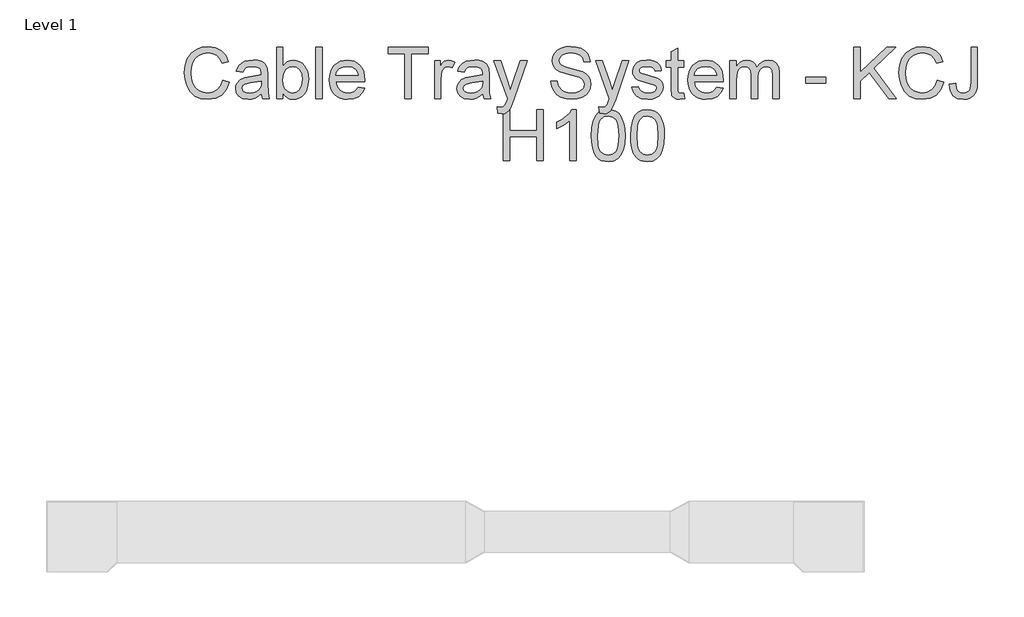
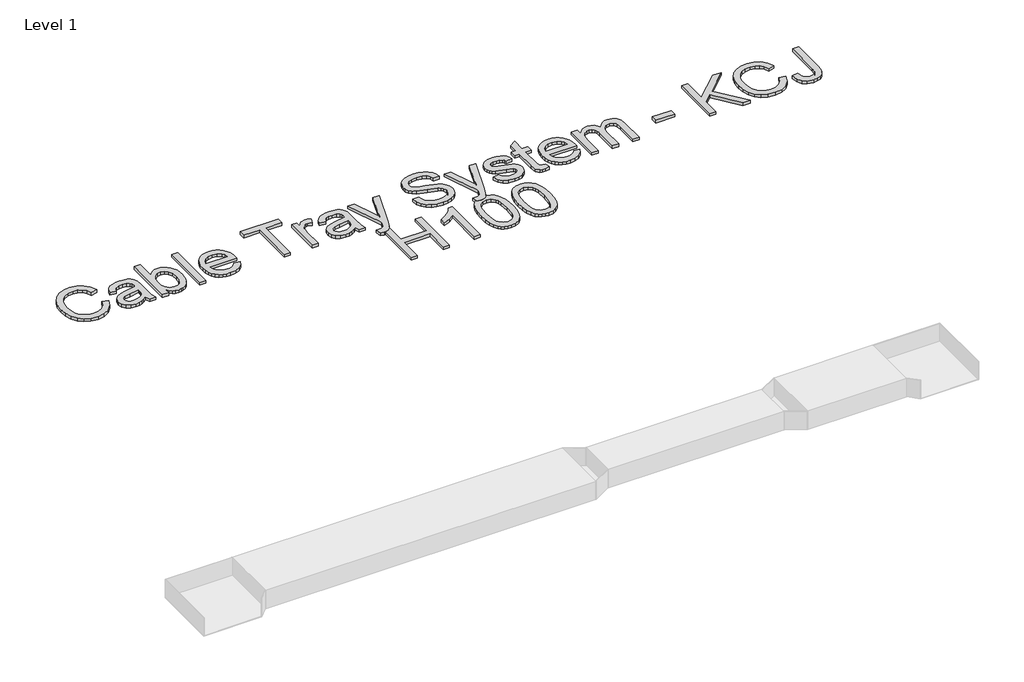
# One storey, part 90 of 106: 1 proxy.
"""IFC4 building model written with IfcOpenShell, lengths in millimetres."""

from ifc_helpers import new_model, si_unit, origin, origin_with_axes, place, context, project, spatial, polyline, outline, extrude, element, save

model = new_model("IFC4")

# Units and contexts
model_context = context("Model", 3, world=origin())
ifc_project = project(units=[si_unit("LENGTHUNIT", "METRE", prefix="MILLI")], contexts=[model_context])

# Site, building, storey
site = spatial("IfcSite", under=ifc_project)
building = spatial("IfcBuilding", under=site)
storey = spatial("IfcBuildingStorey", under=building, Name="Level 1", Elevation=0.0)

# Proxy
placement = place(None, origin())
element("IfcBuildingElementProxy", 1, Name="250mm Arial 3", ObjectType="250mm Arial 3", at=placement, inside=storey, context=model_context, shape_type="SweptSolid", body=[
    extrude(outline(polyline([(157669.4388252, 25992.4106539), (157700.8314221, 25984.31725), (157686.3460685, 25947.7359841), (157663.6140269, 25921.01089), (157633.7542717, 25904.6631338), (157597.8857771, 25899.2138818), (157561.4731238, 25903.3372258), (157532.5560661, 25915.7072579), (157510.3911759, 25935.8947824), (157494.235025, 25963.4706036), (157484.371189, 25995.8902044), (157481.0832437, 26030.6090677), (157484.8003846, 26067.2286547), (157495.9518076, 26098.8511778), (157513.9550328, 26124.472626), (157538.2275802, 26143.0889877), (157567.0143464, 26154.4243517), (157598.5602274, 26158.2028064), (157632.9801866, 26153.3130415), (157661.4373918, 26138.643747), (157683.0427948, 26115.0992993), (157696.9073475, 26083.584075), (157665.5147506, 26076.1038078), (157654.6315749, 26098.9967978), (157639.7630109, 26114.7007605), (157620.7251177, 26123.7828472), (157597.3339541, 26126.8102095), (157570.3712696, 26123.4532863), (157548.2217078, 26113.3825166), (157531.4140991, 26097.6555613), (157520.477274, 26077.3300811), (157514.4761989, 26054.3527848), (157512.4758406, 26030.6703814), (157514.8440809, 26001.6690174), (157521.948802, 25976.5917281), (157534.058251, 25956.3965394), (157551.4406752, 25942.0414774), (157572.2796574, 25933.4652284), (157594.7587802, 25930.6064787), (157620.9627081, 25934.4998965), (157642.7980374, 25946.1801498), (157659.2837493, 25965.5246114), (157669.4388252, 25992.4106539)])), origin_with_axes(), (0.0, 0.0, 1.0), 15.0),
    extrude(outline(polyline([(157857.7944067, 25926.6824041), (157842.7955512, 25913.8218627), (157827.3521716, 25905.406562), (157811.1117144, 25900.7620518), (157793.7216259, 25899.2138818), (157767.4870411, 25902.938687), (157748.1349153, 25914.1131026), (157736.2017431, 25931.0816596), (157732.224019, 25952.1888891), (157733.7262038, 25965.2027147), (157738.2327583, 25977.0209238), (157754.0210272, 25995.0471415), (157776.0019765, 26005.3478374), (157803.1639304, 26010.0689897), (157857.6104657, 26020.8601949), (157857.7944067, 26027.8499528), (157855.6331, 26041.8601254), (157849.1491798, 26051.0265185), (157834.6484979, 26057.8323354), (157814.445645, 26060.100941), (157795.7449769, 26058.591092), (157782.685166, 26054.0615449), (157773.7793561, 26045.6845653), (157767.5406906, 26032.6324187), (157736.1480936, 26036.5564933), (157741.5973457, 26053.7243198), (157749.7290706, 26067.2133262), (157761.3020251, 26077.5293505), (157777.0749656, 26085.1782303), (157796.3657777, 26089.914711), (157818.4923469, 26091.4935379), (157839.7145395, 26090.098652), (157856.5374766, 26085.9139943), (157869.2217412, 26079.6216794), (157878.0279165, 26071.9038217), (157887.654162, 26050.5973228), (157889.1870036, 26023.1288005), (157889.1870036, 25984.0719953), (157890.781159, 25929.5334895), (157897.0351529, 25903.1379564), (157865.6425559, 25903.1379564), (157857.7944067, 25926.6824041)]), holes=[polyline([(157857.7944067, 25989.4675979), (157807.1493187, 25979.8413524), (157780.1406489, 25974.7523181), (157767.9085726, 25966.4749732), (157763.616616, 25954.3961811), (157765.9541995, 25945.0611754), (157772.96695, 25937.4122956), (157784.5015834, 25932.3079329), (157800.4048155, 25930.6064787), (157817.2660736, 25932.4842097), (157832.1652944, 25938.1174028), (157844.2440866, 25946.4177403), (157852.6440588, 25956.2969047), (157856.368864, 25966.4749732), (157857.6104657, 25980.5771164), (157857.7944067, 25989.4675979)])]), origin_with_axes(), (0.0, 0.0, 1.0), 15.0),
    extrude(outline(polyline([(157963.7444213, 25903.1379564), (157932.3518244, 25903.1379564), (157932.3518244, 26154.2787318), (157963.7444213, 26154.2787318), (157963.7444213, 26061.1432733), (157974.0681098, 26074.4215141), (157985.7253705, 26083.9059718), (157998.7162035, 26089.5966464), (158013.0406087, 26091.4935379), (158029.2120881, 26089.7844195), (158044.4945193, 26084.6570642), (158058.0141826, 26076.4333687), (158068.8973583, 26065.4352299), (158083.8885496, 26035.5448178), (158089.314809, 25998.1128248), (158083.6969444, 25956.2049342), (158076.6746136, 25939.2746982), (158066.8433505, 25925.0269351), (158055.0423858, 25913.7337243), (158042.1109505, 25905.6671451), (158028.0490445, 25900.8271976), (158012.8566677, 25899.2138818), (157998.0609137, 25901.2947143), (157984.9436213, 25907.5372119), (157973.5047905, 25917.9413746), (157963.7444213, 25932.5072023), (157963.7444213, 25903.1379564)]), holes=[polyline([(157963.7444213, 25996.6412968), (157965.8903996, 25970.4603615), (157972.3283345, 25952.7407121), (157988.7757254, 25936.140037), (158010.1588664, 25930.6064787), (158028.2770546, 25934.6838375), (158043.7587553, 25946.9159138), (158054.3813479, 25967.2260656), (158057.9222121, 25995.5376509), (158054.5269678, 26024.2631033), (158044.3412351, 26044.3433289), (158029.3423796, 26056.161538), (158011.507767, 26060.100941), (157993.3895788, 26056.0235822), (157977.9078781, 26043.7915059), (157967.2852855, 26023.8492361), (157963.7444213, 25996.6412968)])]), origin_with_axes(), (0.0, 0.0, 1.0), 15.0),
    extrude(outline(polyline([(158124.6314806, 25903.1379564), (158124.6314806, 26154.2787318), (158156.0240775, 26154.2787318), (158156.0240775, 25903.1379564), (158124.6314806, 25903.1379564)])), origin_with_axes(), (0.0, 0.0, 1.0), 15.0),
    extrude(outline(polyline([(158332.2395532, 25958.075001), (158363.0190134, 25954.1509264), (158351.9289041, 25930.9590323), (158334.2322473, 25913.6225933), (158310.3275818, 25902.8160596), (158280.6134465, 25899.2138818), (158261.1348613, 25900.7678), (158243.7792617, 25905.4295547), (158228.5466479, 25913.1991458), (158215.4370197, 25924.0765733), (158204.8949013, 25937.759101), (158197.3648167, 25953.9439928), (158192.8467659, 25972.6312485), (158191.340749, 25993.8208682), (158192.8620943, 26015.7290074), (158197.4261303, 26035.0389801), (158205.032857, 26051.7507861), (158215.6822744, 26065.8644256), (158228.7574136, 26077.0771622), (158243.641306, 26085.0862598), (158260.3339515, 26089.8917184), (158278.8353502, 26091.4935379), (158296.7408567, 26089.8955505), (158312.9334126, 26085.1015883), (158327.413018, 26077.1116512), (158340.1796729, 26065.9257393), (158350.60108, 26051.8427566), (158358.0449423, 26035.1616074), (158362.5112596, 26015.8822916), (158364.0000321, 25994.0048092), (158363.8160911, 25985.5435233), (158222.7333459, 25985.5435233), (158228.1672696, 25962.0450609), (158240.7902205, 25944.7699355), (158259.0080435, 25934.1473429), (158281.2265832, 25930.6064787), (158297.9345571, 25932.2466193), (158312.0060434, 25937.1670409), (158323.4410421, 25945.6743121), (158332.2395532, 25958.075001)]), holes=[polyline([(158222.7333459, 26016.9361202), (158332.6074352, 26016.9361202), (158328.3614638, 26033.5214669), (158320.0381337, 26045.3856612), (158301.7360044, 26056.4221211), (158278.7127229, 26060.100941), (158257.5518439, 26057.1655493), (158240.0544565, 26048.359374), (158227.8913581, 26034.632777), (158222.7333459, 26016.9361202)])]), origin_with_axes(), (0.0, 0.0, 1.0), 15.0),
    extrude(outline(polyline([(158560.2037628, 25903.1379564), (158560.2037628, 26122.8861348), (158477.7981959, 26122.8861348), (158477.7981959, 26154.2787318), (158674.0019267, 26154.2787318), (158674.0019267, 26122.8861348), (158591.5963598, 26122.8861348), (158591.5963598, 25903.1379564), (158560.2037628, 25903.1379564)])), origin_with_axes(), (0.0, 0.0, 1.0), 15.0),
    extrude(outline(polyline([(158705.3945236, 25903.1379564), (158705.3945236, 26087.5694633), (158732.8630459, 26087.5694633), (158732.8630459, 26060.284882), (158743.0104576, 26076.1038078), (158752.3607917, 26085.423485), (158771.9811647, 26091.4935379), (158787.6161495, 26089.0716481), (158803.496389, 26081.8059787), (158793.0117521, 26053.6630061), (158770.9388324, 26060.100941), (158761.5655057, 26058.5527709), (158753.1885261, 26053.9082608), (158741.8761548, 26036.7404343), (158736.7871205, 26000.0748621), (158736.7871205, 25903.1379564), (158705.3945236, 25903.1379564)])), origin_with_axes(), (0.0, 0.0, 1.0), 15.0),
    extrude(outline(polyline([(158940.8390005, 25926.6824041), (158925.840145, 25913.8218627), (158910.3967654, 25905.406562), (158894.1563082, 25900.7620518), (158876.7662197, 25899.2138818), (158850.5316349, 25902.938687), (158831.1795091, 25914.1131026), (158819.2463369, 25931.0816596), (158815.2686128, 25952.1888891), (158816.7707976, 25965.2027147), (158821.2773521, 25977.0209238), (158837.065621, 25995.0471415), (158859.0465703, 26005.3478374), (158886.2085242, 26010.0689897), (158940.6550595, 26020.8601949), (158940.8390005, 26027.8499528), (158938.6776938, 26041.8601254), (158932.1937736, 26051.0265185), (158917.6930917, 26057.8323354), (158897.4902388, 26060.100941), (158878.7895707, 26058.591092), (158865.7297598, 26054.0615449), (158856.8239499, 26045.6845653), (158850.5852844, 26032.6324187), (158819.1926874, 26036.5564933), (158824.6419395, 26053.7243198), (158832.7736644, 26067.2133262), (158844.3466189, 26077.5293505), (158860.1195594, 26085.1782303), (158879.4103715, 26089.914711), (158901.5369407, 26091.4935379), (158922.7591333, 26090.098652), (158939.5820704, 26085.9139943), (158952.266335, 26079.6216794), (158961.0725103, 26071.9038217), (158970.6987558, 26050.5973228), (158972.2315974, 26023.1288005), (158972.2315974, 25984.0719953), (158973.8257528, 25929.5334895), (158980.0797467, 25903.1379564), (158948.6871497, 25903.1379564), (158940.8390005, 25926.6824041)]), holes=[polyline([(158940.8390005, 25989.4675979), (158890.1939125, 25979.8413524), (158863.1852427, 25974.7523181), (158850.9531664, 25966.4749732), (158846.6612098, 25954.3961811), (158848.9987933, 25945.0611754), (158856.0115438, 25937.4122956), (158867.5461772, 25932.3079329), (158883.4494093, 25930.6064787), (158900.3106674, 25932.4842097), (158915.2098882, 25938.1174028), (158927.2886804, 25946.4177403), (158935.6886526, 25956.2969047), (158939.4134578, 25966.4749732), (158940.6550595, 25980.5771164), (158940.8390005, 25989.4675979)])]), origin_with_axes(), (0.0, 0.0, 1.0), 15.0),
    extrude(outline(polyline([(159015.3964182, 25832.5046133), (159011.4723436, 25862.7322506), (159027.4138967, 25859.9731356), (159042.3131175, 25863.4373577), (159051.4488537, 25873.0942601), (159060.032767, 25896.2095122), (159062.4853136, 25903.8124067), (158995.7760451, 26087.5694633), (159028.824111, 26087.5694633), (159064.2634099, 25985.1143277), (159076.5874567, 25944.1567989), (159088.9115036, 25980.3931754), (159125.2705074, 26087.5694633), (159158.0733187, 26087.5694633), (159093.8779105, 25898.7233725), (159077.2005934, 25857.7658437), (159068.6626654, 25844.6907044), (159058.9904346, 25835.6316103), (159047.7700338, 25830.3433066), (159034.5875956, 25828.5805387), (159015.3964182, 25832.5046133)])), origin_with_axes(), (0.0, 0.0, 1.0), 15.0),
    extrude(outline(polyline([(159274.3853428, 25989.4675979), (159305.7779397, 25989.4675979), (159309.3801176, 25972.0468526), (159315.8946946, 25958.0443442), (159326.0574347, 25946.9312422), (159340.6041019, 25938.1787164), (159358.385065, 25932.4995381), (159378.2506928, 25930.6064787), (159395.740416, 25932.0396856), (159411.053504, 25936.3393065), (159423.4618571, 25943.1451234), (159432.2373756, 25952.0969186), (159437.4567014, 25962.3746218), (159439.1964766, 25973.1581628), (159433.9848151, 25992.7478791), (159426.0446953, 26000.4963936), (159412.6476593, 26007.0033064), (159366.9383214, 26018.990128), (159317.7341046, 26034.4718287), (159302.106784, 26045.0331076), (159291.0320031, 26057.8323354), (159284.4331198, 26072.5936004), (159282.233492, 26089.0409913), (159284.954286, 26107.4274268), (159293.1166677, 26124.5722607), (159306.5060395, 26139.1035995), (159324.9078035, 26149.64955), (159346.9960516, 26156.0644923), (159371.4448759, 26158.2028064), (159397.9323795, 26155.9648576), (159421.1089452, 26149.2510112), (159440.1468385, 26138.1992229), (159454.2183248, 26122.9474485), (159463.1241348, 26104.4460498), (159466.664999, 26083.6453887), (159435.272402, 26083.6453887), (159429.5089174, 26102.3767136), (159417.4914389, 26115.8963769), (159398.7141288, 26124.0817513), (159372.6711492, 26126.8102095), (159346.015033, 26124.1124082), (159327.7282321, 26116.0190043), (159317.1516247, 26104.1088247), (159313.626089, 26089.9606963), (159316.1246208, 26077.8972325), (159323.6202165, 26068.1943449), (159341.3398659, 26059.5184612), (159374.8784412, 26050.6586365), (159430.4286224, 26034.9010243), (159448.3245487, 26023.5120109), (159460.8095439, 26009.455853), (159468.1441911, 25992.8858348), (159470.5890736, 25973.9552405), (159467.7763091, 25954.6031147), (159459.3380159, 25936.4006201), (159445.6190831, 25920.7349785), (159426.9644003, 25908.9934115), (159404.5312628, 25901.6587642), (159379.4769661, 25899.2138818), (159348.7204985, 25901.8503694), (159323.4056187, 25909.7598323), (159303.2410868, 25922.9729273), (159287.935663, 25941.5203112), (159278.110148, 25964.1143971), (159274.3853428, 25989.4675979)])), origin_with_axes(), (0.0, 0.0, 1.0), 15.0),
    extrude(outline(polyline([(159513.7538943, 25832.5046133), (159509.8298197, 25862.7322506), (159525.7713728, 25859.9731356), (159540.6705937, 25863.4373577), (159549.8063299, 25873.0942601), (159558.3902431, 25896.2095122), (159560.8427897, 25903.8124067), (159494.1335213, 26087.5694633), (159527.1815872, 26087.5694633), (159562.620886, 25985.1143277), (159574.9449329, 25944.1567989), (159587.2689797, 25980.3931754), (159623.6279836, 26087.5694633), (159656.4307948, 26087.5694633), (159592.2353866, 25898.7233725), (159575.5580695, 25857.7658437), (159567.0201416, 25844.6907044), (159557.3479108, 25835.6316103), (159546.1275099, 25830.3433066), (159532.9450718, 25828.5805387), (159513.7538943, 25832.5046133)])), origin_with_axes(), (0.0, 0.0, 1.0), 15.0),
    extrude(outline(polyline([(159670.7168789, 25958.075001), (159702.1094759, 25961.9990756), (159707.0605544, 25948.5713828), (159716.6408147, 25938.6998826), (159730.9115704, 25932.6298297), (159749.9341352, 25930.6064787), (159768.7267738, 25932.4612171), (159781.9398688, 25938.0254323), (159789.7573612, 25946.0881793), (159792.363192, 25955.4385134), (159789.7420328, 25963.4399468), (159781.8785552, 25969.5406565), (159749.5662532, 25978.4924517), (159702.2934169, 25993.851525), (159690.3295878, 26001.5693827), (159681.6613683, 26011.7857723), (159676.3960572, 26023.8492361), (159674.6409536, 26037.1083163), (159680.2818108, 26060.4994798), (159695.671541, 26078.3724134), (159715.6291392, 26087.6614338), (159742.637809, 26091.4935379), (159763.0705882, 26089.9530321), (159780.8362228, 26085.3315145), (159795.122307, 26078.0811735), (159805.1164345, 26068.6541974), (159811.7383104, 26056.3531432), (159815.9076397, 26040.4805679), (159784.5150428, 26036.5564933), (159780.5526471, 26046.4356577), (159772.7121621, 26053.8776039), (159760.9169456, 26058.5451067), (159745.0903556, 26060.100941), (159727.0641379, 26058.6140846), (159715.0466594, 26054.1535154), (159708.2868277, 26047.7155805), (159706.0335505, 26040.2966269), (159709.7736841, 26031.1608907), (159721.4845943, 26024.2324465), (159748.5239209, 26017.5492569), (159794.6011408, 26002.7726634), (159806.7719035, 25995.7062634), (159815.9996102, 25986.0340326), (159821.8167443, 25973.7253142), (159823.7557889, 25958.7494513), (159821.4795191, 25943.2677507), (159814.6507096, 25928.7057551), (159803.5299434, 25916.2054314), (159788.3778037, 25906.9087468), (159770.0756745, 25901.137598), (159749.5049396, 25899.2138818), (159717.8517596, 25902.9233586), (159694.751836, 25914.0517889), (159679.331449, 25932.4765455), (159670.7168789, 25958.075001)])), origin_with_axes(), (0.0, 0.0, 1.0), 15.0),
    extrude(outline(polyline([(159925.7817289, 25929.3188917), (159929.7058036, 25902.2182514), (159906.2226695, 25899.2138818), (159891.1548361, 25900.5167972), (159879.9191069, 25904.4255434), (159866.7979824, 25918.0984909), (159862.9965351, 25953.7217307), (159862.9965351, 26056.1768664), (159839.4520874, 26056.1768664), (159839.4520874, 26087.5694633), (159862.9965351, 26087.5694633), (159862.9965351, 26132.3897531), (159894.389132, 26150.8451665), (159894.389132, 26087.5694633), (159925.7817289, 26087.5694633), (159925.7817289, 26056.1768664), (159894.389132, 26056.1768664), (159894.389132, 25954.6414357), (159896.044601, 25938.4546279), (159901.4095468, 25932.7218002), (159912.1087814, 25930.6064787), (159925.7817289, 25929.3188917)])), origin_with_axes(), (0.0, 0.0, 1.0), 15.0),
    extrude(outline(polyline([(160086.3009062, 25958.075001), (160117.0803664, 25954.1509264), (160105.9902571, 25930.9590323), (160088.2936003, 25913.6225933), (160064.3889348, 25902.8160596), (160034.6747995, 25899.2138818), (160015.1962143, 25900.7678), (159997.8406147, 25905.4295547), (159982.6080009, 25913.1991458), (159969.4983727, 25924.0765733), (159958.9562543, 25937.759101), (159951.4261697, 25953.9439928), (159946.9081189, 25972.6312485), (159945.402102, 25993.8208682), (159946.9234473, 26015.7290074), (159951.4874833, 26035.0389801), (159959.09421, 26051.7507861), (159969.7436274, 26065.8644256), (159982.8187666, 26077.0771622), (159997.702659, 26085.0862598), (160014.3953045, 26089.8917184), (160032.8967032, 26091.4935379), (160050.8022097, 26089.8955505), (160066.9947656, 26085.1015883), (160081.474371, 26077.1116512), (160094.2410259, 26065.9257393), (160104.662433, 26051.8427566), (160112.1062953, 26035.1616074), (160116.5726126, 26015.8822916), (160118.0613851, 25994.0048092), (160117.8774441, 25985.5435233), (159976.7946989, 25985.5435233), (159982.2286226, 25962.0450609), (159994.8515735, 25944.7699355), (160013.0693965, 25934.1473429), (160035.2879362, 25930.6064787), (160051.9959101, 25932.2466193), (160066.0673964, 25937.1670409), (160077.5023951, 25945.6743121), (160086.3009062, 25958.075001)]), holes=[polyline([(159976.7946989, 26016.9361202), (160086.6687882, 26016.9361202), (160082.4228168, 26033.5214669), (160074.0994867, 26045.3856612), (160055.7973574, 26056.4221211), (160032.7740759, 26060.100941), (160011.6131969, 26057.1655493), (159994.1158095, 26048.359374), (159981.9527111, 26034.632777), (159976.7946989, 26016.9361202)])]), origin_with_axes(), (0.0, 0.0, 1.0), 15.0),
    extrude(outline(polyline([(160149.453982, 25903.1379564), (160149.453982, 26087.5694633), (160180.8465789, 26087.5694633), (160180.8465789, 26057.2191987), (160190.2888835, 26071.1603935), (160202.4289893, 26082.0818902), (160216.8530292, 26089.140626), (160233.1471359, 26091.4935379), (160250.6062023, 26089.0946407), (160264.6010465, 26081.8979492), (160275.0550265, 26070.3786442), (160281.8915003, 26055.0119067), (160293.3341632, 26070.9726204), (160306.3863098, 26082.3731301), (160321.0479401, 26089.213436), (160337.3190542, 26091.4935379), (160360.9171514, 26087.6997549), (160378.3685535, 26076.3184056), (160389.1520945, 26057.0429219), (160392.7466081, 26029.5667354), (160392.7466081, 25903.1379564), (160361.3540112, 25903.1379564), (160361.3540112, 26016.0777289), (160358.4416121, 26042.2893211), (160347.8956616, 26055.1958477), (160329.9614143, 26060.100941), (160312.9545362, 26056.9586156), (160299.0899835, 26047.5316395), (160289.869941, 26031.1762191), (160286.7965935, 26007.248561), (160286.7965935, 25903.1379564), (160255.4039966, 25903.1379564), (160255.4039966, 26019.5726079), (160253.5875793, 26037.3229141), (160248.1383272, 26049.9841861), (160238.5504027, 26057.5717523), (160224.317968, 26060.100941), (160212.2238474, 26058.4148152), (160201.0800887, 26053.3564378), (160191.8830388, 26045.048436), (160185.6290449, 26033.6134374), (160180.8465789, 25996.1507875), (160180.8465789, 25903.1379564), (160149.453982, 25903.1379564)])), origin_with_axes(), (0.0, 0.0, 1.0), 15.0),
    extrude(outline(polyline([(160522.2410704, 25977.6953741), (160522.2410704, 26009.087971), (160620.3429358, 26009.087971), (160620.3429358, 25977.6953741), (160522.2410704, 25977.6953741)])), origin_with_axes(), (0.0, 0.0, 1.0), 15.0),
    extrude(outline(polyline([(160757.6855474, 25903.1379564), (160757.6855474, 26154.2787318), (160789.0781443, 26154.2787318), (160789.0781443, 26031.3448317), (160917.8368426, 26154.2787318), (160961.7374274, 26154.2787318), (160853.5801208, 26051.0265185), (160965.661502, 25903.1379564), (160927.2791471, 25903.1379564), (160831.3232601, 26029.8119901), (160789.0781443, 25989.4675979), (160789.0781443, 25903.1379564), (160757.6855474, 25903.1379564)])), origin_with_axes(), (0.0, 0.0, 1.0), 15.0),
    extrude(outline(polyline([(161165.7893073, 25992.4106539), (161197.1819043, 25984.31725), (161182.6965507, 25947.7359841), (161159.9645091, 25921.01089), (161130.1047538, 25904.6631338), (161094.2362593, 25899.2138818), (161057.823606, 25903.3372258), (161028.9065483, 25915.7072579), (161006.7416581, 25935.8947824), (160990.5855071, 25963.4706036), (160980.7216711, 25995.8902044), (160977.4337258, 26030.6090677), (160981.1508668, 26067.2286547), (160992.3022898, 26098.8511778), (161010.3055149, 26124.472626), (161034.5780624, 26143.0889877), (161063.3648285, 26154.4243517), (161094.9107096, 26158.2028064), (161129.3306688, 26153.3130415), (161157.787874, 26138.643747), (161179.393277, 26115.0992993), (161193.2578297, 26083.584075), (161161.8652327, 26076.1038078), (161150.982057, 26098.9967978), (161136.1134931, 26114.7007605), (161117.0755998, 26123.7828472), (161093.6844363, 26126.8102095), (161066.7217517, 26123.4532863), (161044.5721899, 26113.3825166), (161027.7645813, 26097.6555613), (161016.8277561, 26077.3300811), (161010.8266811, 26054.3527848), (161008.8263227, 26030.6703814), (161011.1945631, 26001.6690174), (161018.2992841, 25976.5917281), (161030.4087331, 25956.3965394), (161047.7911574, 25942.0414774), (161068.6301396, 25933.4652284), (161091.1092623, 25930.6064787), (161117.3131903, 25934.4998965), (161139.1485195, 25946.1801498), (161155.6342314, 25965.5246114), (161165.7893073, 25992.4106539)])), origin_with_axes(), (0.0, 0.0, 1.0), 15.0),
    extrude(outline(polyline([(161224.6504266, 25973.6486721), (161256.0430235, 25977.6953741), (161259.3079762, 25954.871362), (161266.772915, 25940.6006062), (161278.1772569, 25933.1050106), (161293.2604187, 25930.6064787), (161304.8563657, 25932.0243572), (161314.7508586, 25936.2779928), (161322.38441, 25942.9765108), (161327.1975327, 25951.7290366), (161330.6004412, 25982.845722), (161330.6004412, 26154.2787318), (161361.9930381, 26154.2787318), (161361.9930381, 25983.397545), (161360.0999787, 25955.4461776), (161354.4208004, 25934.6225238), (161344.6259423, 25919.4090705), (161330.3858434, 25908.2883043), (161312.5052455, 25901.4824874), (161291.7888907, 25899.2138818), (161262.7721983, 25903.896713), (161241.450371, 25917.9452067), (161228.5131875, 25941.2367355), (161224.6504266, 25973.6486721)])), origin_with_axes(), (0.0, 0.0, 1.0), 15.0),
    extrude(outline(polyline([(159040.9029032, 25598.2009118), (159040.9029032, 25849.3416872), (159072.2955001, 25849.3416872), (159072.2955001, 25747.3157472), (159205.714037, 25747.3157472), (159205.714037, 25849.3416872), (159237.106634, 25849.3416872), (159237.106634, 25598.2009118), (159205.714037, 25598.2009118), (159205.714037, 25715.9231502), (159072.2955001, 25715.9231502), (159072.2955001, 25598.2009118), (159040.9029032, 25598.2009118)])), origin_with_axes(), (0.0, 0.0, 1.0), 15.0),
    extrude(outline(polyline([(159397.9936932, 25598.2009118), (159366.6010963, 25598.2009118), (159366.6010963, 25793.9141332), (159336.8639683, 25772.7302617), (159303.8159024, 25756.880679), (159303.8159024, 25786.5564933), (159328.4716603, 25799.9688577), (159349.8318087, 25815.9257393), (159366.6700741, 25832.8942963), (159377.7601835, 25849.3416872), (159397.9936932, 25849.3416872), (159397.9936932, 25598.2009118)])), origin_with_axes(), (0.0, 0.0, 1.0), 15.0),
    extrude(outline(polyline([(159472.5511109, 25721.7479485), (159474.8580376, 25761.9467207), (159481.7788176, 25794.0061037), (159493.2444731, 25818.4166069), (159509.1860262, 25835.6687397), (159529.7184401, 25845.9234503), (159554.9566778, 25849.3416872), (159574.3011394, 25847.3183362), (159591.62225, 25841.2482833), (159606.1076035, 25831.3691189), (159616.944794, 25817.9184334), (159631.6600738, 25780.7623519), (159635.936702, 25755.0489333), (159637.3622447, 25721.7479485), (159635.0783107, 25681.7791026), (159628.2265085, 25649.7963616), (159616.8298309, 25625.3628658), (159600.9112704, 25608.0417552), (159580.3328713, 25597.7180667), (159554.9566778, 25594.2768372), (159537.666224, 25595.7713578), (159522.3378076, 25600.2549196), (159508.9714284, 25607.7275226), (159497.5670866, 25618.1891669), (159486.6225972, 25637.1006007), (159478.8051048, 25660.6642089), (159474.1146094, 25688.8799915), (159472.5511109, 25721.7479485)]), holes=[polyline([(159503.9437078, 25721.8092622), (159507.6225278, 25672.4287685), (159512.2210527, 25655.5387696), (159518.6589876, 25643.848936), (159535.0910501, 25630.2143096), (159554.9566778, 25625.6694341), (159574.8223055, 25630.229638), (159591.254368, 25643.9102497), (159597.6923029, 25655.6192438), (159602.2908278, 25672.5054106), (159605.9696478, 25721.8092622), (159602.4134552, 25770.0784456), (159597.9682144, 25786.912879), (159591.7448773, 25798.8805402), (159575.3434717, 25813.1819527), (159554.5887958, 25817.9490902), (159534.9377659, 25813.7491041), (159519.1494969, 25801.1491458), (159512.4969642, 25788.1199918), (159507.7451551, 25770.5536265), (159503.9437078, 25721.8092622)])]), origin_with_axes(), (0.0, 0.0, 1.0), 15.0),
    extrude(outline(polyline([(159664.830767, 25721.7479485), (159667.1376937, 25761.9467207), (159674.0584737, 25794.0061037), (159685.5241293, 25818.4166069), (159701.4656824, 25835.6687397), (159721.9980962, 25845.9234503), (159747.2363339, 25849.3416872), (159766.5807955, 25847.3183362), (159783.9019061, 25841.2482833), (159798.3872597, 25831.3691189), (159809.2244501, 25817.9184334), (159823.9397299, 25780.7623519), (159828.2163581, 25755.0489333), (159829.6419009, 25721.7479485), (159827.3579668, 25681.7791026), (159820.5061647, 25649.7963616), (159809.109487, 25625.3628658), (159793.1909265, 25608.0417552), (159772.6125274, 25597.7180667), (159747.2363339, 25594.2768372), (159729.9458802, 25595.7713578), (159714.6174637, 25600.2549196), (159701.2510845, 25607.7275226), (159689.8467427, 25618.1891669), (159678.9022533, 25637.1006007), (159671.0847609, 25660.6642089), (159666.3942655, 25688.8799915), (159664.830767, 25721.7479485)]), holes=[polyline([(159696.2233639, 25721.8092622), (159699.9021839, 25672.4287685), (159704.5007088, 25655.5387696), (159710.9386438, 25643.848936), (159727.3707062, 25630.2143096), (159747.2363339, 25625.6694341), (159767.1019617, 25630.229638), (159783.5340241, 25643.9102497), (159789.9719591, 25655.6192438), (159794.570484, 25672.5054106), (159798.2493039, 25721.8092622), (159794.6931113, 25770.0784456), (159790.2478705, 25786.912879), (159784.0245335, 25798.8805402), (159767.6231278, 25813.1819527), (159746.8684519, 25817.9490902), (159727.217422, 25813.7491041), (159711.4291531, 25801.1491458), (159704.7766203, 25788.1199918), (159700.0248112, 25770.5536265), (159696.2233639, 25721.8092622)])]), origin_with_axes(), (0.0, 0.0, 1.0), 15.0),
])

save(model, "model.ifc")
